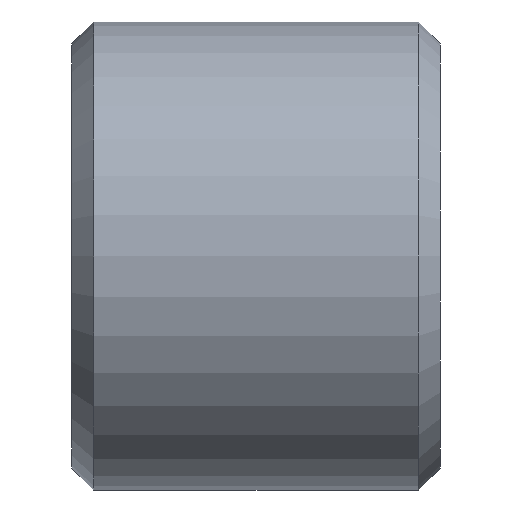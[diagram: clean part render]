
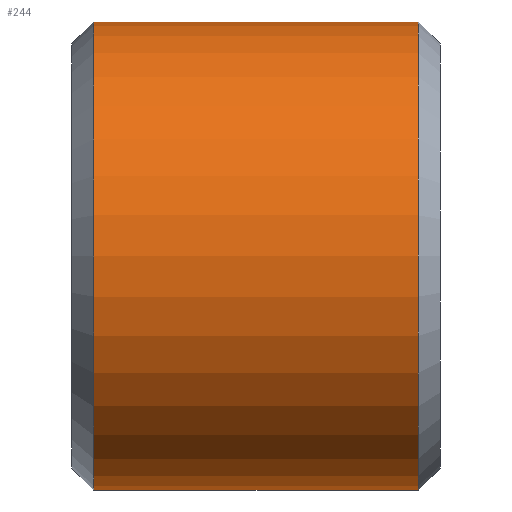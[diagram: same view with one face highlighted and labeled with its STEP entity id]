
A CAD part, left-side view. The second image highlights one B-rep face of the part: STEP entity #244.
In plain terms, the highlighted cylindrical face has radius 8.268 mm (diameter 16.537 mm), a full revolution.
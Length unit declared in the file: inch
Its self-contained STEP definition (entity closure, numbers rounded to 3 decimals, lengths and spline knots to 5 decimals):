
#16=CYLINDRICAL_SURFACE('',#274,0.32553);
#18=CIRCLE('',#272,0.32553);
#19=CIRCLE('',#273,0.32553);
#20=CIRCLE('',#275,0.32553);
#21=CIRCLE('',#276,0.32553);
#34=FACE_OUTER_BOUND('',#47,.T.);
#47=EDGE_LOOP('',(#193,#194,#195,#196,#197,#198));
#67=LINE('',#425,#83);
#83=VECTOR('',#321,0.335);
#117=VERTEX_POINT('',#418);
#118=VERTEX_POINT('',#420);
#119=VERTEX_POINT('',#424);
#120=VERTEX_POINT('',#426);
#149=EDGE_CURVE('',#117,#118,#18,.F.);
#150=EDGE_CURVE('',#118,#117,#19,.F.);
#151=EDGE_CURVE('',#118,#119,#67,.T.);
#152=EDGE_CURVE('',#120,#119,#20,.F.);
#153=EDGE_CURVE('',#119,#120,#21,.F.);
#193=ORIENTED_EDGE('',*,*,#150,.F.);
#194=ORIENTED_EDGE('',*,*,#151,.T.);
#195=ORIENTED_EDGE('',*,*,#152,.F.);
#196=ORIENTED_EDGE('',*,*,#153,.F.);
#197=ORIENTED_EDGE('',*,*,#151,.F.);
#198=ORIENTED_EDGE('',*,*,#149,.F.);
#244=ADVANCED_FACE('',(#34),#16,.T.);
#272=AXIS2_PLACEMENT_3D('',#421,#315,#316);
#273=AXIS2_PLACEMENT_3D('',#422,#317,#318);
#274=AXIS2_PLACEMENT_3D('',#423,#319,#320);
#275=AXIS2_PLACEMENT_3D('',#427,#322,#323);
#276=AXIS2_PLACEMENT_3D('',#428,#324,#325);
#315=DIRECTION('center_axis',(0.,1.,0.));
#316=DIRECTION('ref_axis',(0.,0.,-1.));
#317=DIRECTION('center_axis',(0.,1.,0.));
#318=DIRECTION('ref_axis',(0.,0.,-1.));
#319=DIRECTION('center_axis',(0.,-1.,0.));
#320=DIRECTION('ref_axis',(0.,0.,-1.));
#321=DIRECTION('',(0.,1.,0.));
#322=DIRECTION('center_axis',(0.,-1.,0.));
#323=DIRECTION('ref_axis',(0.,0.,-1.));
#324=DIRECTION('center_axis',(0.,-1.,0.));
#325=DIRECTION('ref_axis',(0.,0.,-1.));
#418=CARTESIAN_POINT('',(0.,0.03053,-0.32553));
#420=CARTESIAN_POINT('',(0.,0.03053,0.32553));
#421=CARTESIAN_POINT('Origin',(0.,0.03053,0.));
#422=CARTESIAN_POINT('Origin',(0.,0.03053,0.));
#423=CARTESIAN_POINT('Origin',(0.,0.2565,0.));
#424=CARTESIAN_POINT('',(0.,0.48247,0.32553));
#425=CARTESIAN_POINT('',(0.,0.2565,0.32553));
#426=CARTESIAN_POINT('',(0.,0.48247,-0.32553));
#427=CARTESIAN_POINT('Origin',(0.,0.48247,0.));
#428=CARTESIAN_POINT('Origin',(0.,0.48247,0.));
